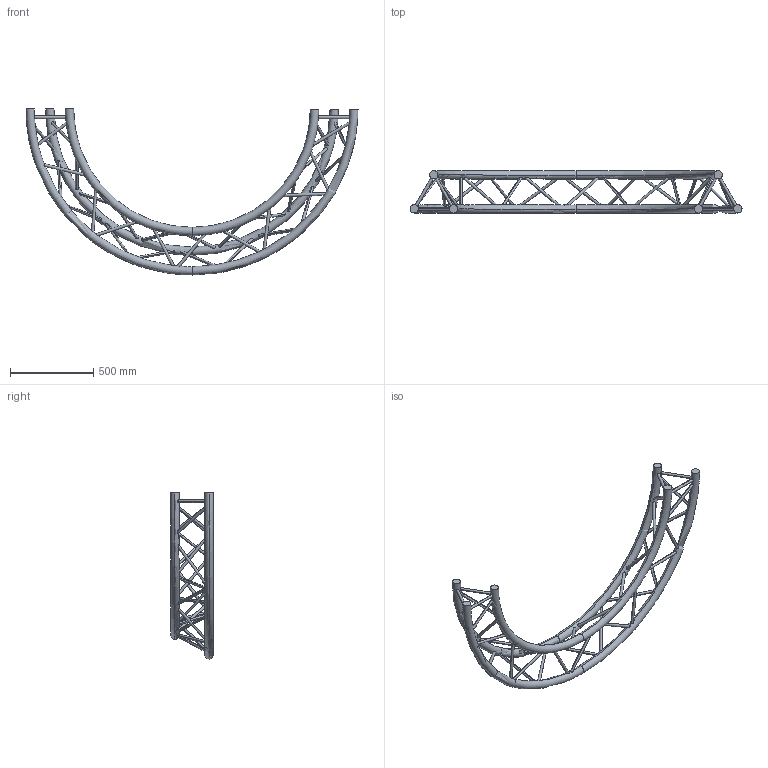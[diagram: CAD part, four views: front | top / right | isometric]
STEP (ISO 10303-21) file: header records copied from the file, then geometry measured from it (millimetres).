
FILE_DESCRIPTION (( 'STEP AP203' ), '1' );
FILE_NAME ('SXC29200PH.STEP', '2009-10-21T08:26:05', ( 'CEDIA' ), ( 'CEDIA INDUSTRIE' ), 'SwSTEP 2.0', 'SolidWorks 2009', '' );
FILE_SCHEMA (( 'CONFIG_CONTROL_DESIGN' ));
Length unit declared in the file: millimetre
Products named in the file (1): SXC29200PH
Bounding box: 2000 x 255.25 x 1000 mm (x, y, z)
Volume: 17762740.5 mm3; surface area: 1738966.7 mm2
Topology: 1 solids, 1 shells, 96 faces, 290 edges, 174 vertices
Faces by surface type: cylinder 78, torus 12, plane 6
Entity records: 10336 total; most frequent: CARTESIAN_POINT 7818, ORIENTED_EDGE 580, DIRECTION 384, EDGE_CURVE 290, VERTEX_POINT 174, B_SPLINE_CURVE_WITH_KNOTS 156, AXIS2_PLACEMENT_3D 153, EDGE_LOOP 148
